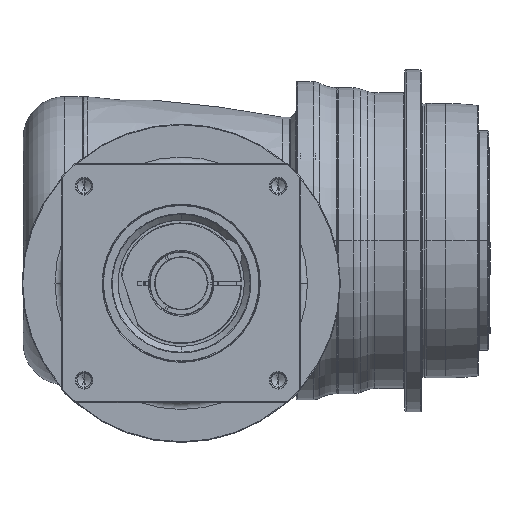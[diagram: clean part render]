
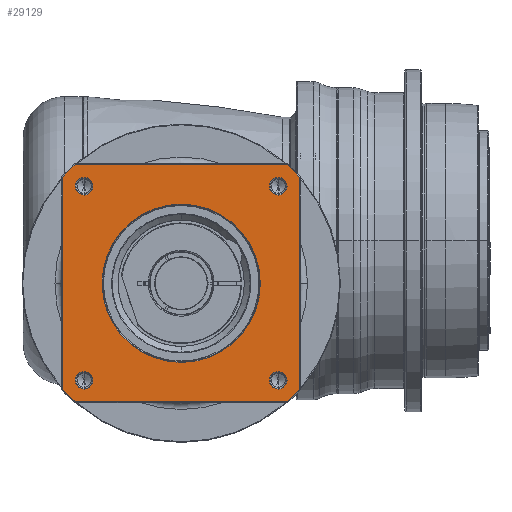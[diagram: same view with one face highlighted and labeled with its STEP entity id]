
A CAD part, front view. The second image highlights one B-rep face of the part: STEP entity #29129.
In plain terms, the highlighted planar face has unit normal (0, -1, 0) as drawn and (0, 0, 1) by its records, which use the part's own axes.
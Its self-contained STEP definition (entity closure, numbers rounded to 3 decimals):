
#27880=CARTESIAN_POINT('',(0.,0.,
76.));
#27881=DIRECTION('',(0.,0.,-1.));
#27882=DIRECTION('',(0.,-1.,0.));
#27883=AXIS2_PLACEMENT_3D('',#27880,#27881,#27882);
#27885=CARTESIAN_POINT('',(0.,0.,
76.));
#27886=DIRECTION('',(0.,0.,-1.));
#27887=DIRECTION('',(0.,1.,0.));
#27888=AXIS2_PLACEMENT_3D('',#27885,#27886,#27887);
#27890=CARTESIAN_POINT('',(0.,0.,76.));
#27891=DIRECTION('',(0.,0.,1.));
#27892=DIRECTION('',(-0.746,-0.666,0.));
#27893=AXIS2_PLACEMENT_3D('',#27890,#27891,#27892);
#27905=DIRECTION('',(1.,0.,0.));
#27906=VECTOR('',#27905,154.58);
#27907=CARTESIAN_POINT('',(-77.29,-86.5,76.));
#27908=LINE('',#27907,#27906);
#27918=CARTESIAN_POINT('',(0.,0.,76.));
#27919=DIRECTION('',(0.,0.,1.));
#27920=DIRECTION('',(0.666,-0.746,0.));
#27921=AXIS2_PLACEMENT_3D('',#27918,#27919,#27920);
#27933=DIRECTION('',(0.,1.,0.));
#27934=VECTOR('',#27933,154.58);
#27935=CARTESIAN_POINT('',(86.5,-77.29,76.));
#27936=LINE('',#27935,#27934);
#27946=CARTESIAN_POINT('',(0.,0.,76.));
#27947=DIRECTION('',(0.,0.,1.));
#27948=DIRECTION('',(0.746,0.666,0.));
#27949=AXIS2_PLACEMENT_3D('',#27946,#27947,#27948);
#27961=DIRECTION('',(-1.,0.,0.));
#27962=VECTOR('',#27961,154.58);
#27963=CARTESIAN_POINT('',(77.29,86.5,76.));
#27964=LINE('',#27963,#27962);
#27969=CARTESIAN_POINT('',(0.,0.,76.));
#27970=DIRECTION('',(0.,0.,1.));
#27971=DIRECTION('',(-0.666,0.746,0.));
#27972=AXIS2_PLACEMENT_3D('',#27969,#27970,#27971);
#27989=DIRECTION('',(0.,-1.,0.));
#27990=VECTOR('',#27989,154.58);
#27991=CARTESIAN_POINT('',(-86.5,77.29,76.));
#27992=LINE('',#27991,#27990);
#28075=CARTESIAN_POINT('',(-70.711,70.711,76.));
#28076=DIRECTION('',(0.,0.,1.));
#28077=DIRECTION('',(-1.,0.,0.));
#28078=AXIS2_PLACEMENT_3D('',#28075,#28076,#28077);
#28093=CARTESIAN_POINT('',(-70.711,70.711,76.));
#28094=DIRECTION('',(0.,0.,1.));
#28095=DIRECTION('',(1.,0.,0.));
#28096=AXIS2_PLACEMENT_3D('',#28093,#28094,#28095);
#28129=CARTESIAN_POINT('',(70.711,70.711,76.));
#28130=DIRECTION('',(0.,0.,1.));
#28131=DIRECTION('',(-1.,0.,0.));
#28132=AXIS2_PLACEMENT_3D('',#28129,#28130,#28131);
#28147=CARTESIAN_POINT('',(70.711,70.711,76.));
#28148=DIRECTION('',(0.,0.,1.));
#28149=DIRECTION('',(1.,0.,0.));
#28150=AXIS2_PLACEMENT_3D('',#28147,#28148,#28149);
#28183=CARTESIAN_POINT('',(70.711,-70.711,76.));
#28184=DIRECTION('',(0.,0.,1.));
#28185=DIRECTION('',(-1.,0.,0.));
#28186=AXIS2_PLACEMENT_3D('',#28183,#28184,#28185);
#28201=CARTESIAN_POINT('',(70.711,-70.711,76.));
#28202=DIRECTION('',(0.,0.,1.));
#28203=DIRECTION('',(1.,0.,0.));
#28204=AXIS2_PLACEMENT_3D('',#28201,#28202,#28203);
#28237=CARTESIAN_POINT('',(-70.711,-70.711,76.));
#28238=DIRECTION('',(0.,0.,1.));
#28239=DIRECTION('',(-1.,0.,0.));
#28240=AXIS2_PLACEMENT_3D('',#28237,#28238,#28239);
#28255=CARTESIAN_POINT('',(-70.711,-70.711,76.));
#28256=DIRECTION('',(0.,0.,1.));
#28257=DIRECTION('',(1.,0.,0.));
#28258=AXIS2_PLACEMENT_3D('',#28255,#28256,#28257);
#28387=CARTESIAN_POINT('',(86.5,-77.29,76.));
#28388=CARTESIAN_POINT('',(86.5,77.29,76.));
#28389=VERTEX_POINT('',#28387);
#28390=VERTEX_POINT('',#28388);
#28395=CARTESIAN_POINT('',(77.29,-86.5,76.));
#28396=VERTEX_POINT('',#28395);
#28399=CARTESIAN_POINT('',(-77.29,-86.5,76.));
#28400=VERTEX_POINT('',#28399);
#28403=CARTESIAN_POINT('',(-86.5,-77.29,76.));
#28404=VERTEX_POINT('',#28403);
#28407=CARTESIAN_POINT('',(-86.5,77.29,76.));
#28408=VERTEX_POINT('',#28407);
#28411=CARTESIAN_POINT('',(-77.29,86.5,76.));
#28412=VERTEX_POINT('',#28411);
#28415=CARTESIAN_POINT('',(77.29,86.5,76.));
#28416=VERTEX_POINT('',#28415);
#28425=CARTESIAN_POINT('',(-77.111,70.711,76.));
#28426=CARTESIAN_POINT('',(-64.311,70.711,76.));
#28427=VERTEX_POINT('',#28425);
#28428=VERTEX_POINT('',#28426);
#28451=CARTESIAN_POINT('',(77.111,70.711,76.));
#28452=CARTESIAN_POINT('',(64.311,70.711,76.));
#28453=VERTEX_POINT('',#28451);
#28454=VERTEX_POINT('',#28452);
#28459=CARTESIAN_POINT('',(77.111,-70.711,76.));
#28460=CARTESIAN_POINT('',(64.311,-70.711,76.));
#28461=VERTEX_POINT('',#28459);
#28462=VERTEX_POINT('',#28460);
#28467=CARTESIAN_POINT('',(-64.311,-70.711,76.));
#28468=CARTESIAN_POINT('',(-77.111,-70.711,76.));
#28469=VERTEX_POINT('',#28467);
#28470=VERTEX_POINT('',#28468);
#28475=CARTESIAN_POINT('',(0.,-57.65,76.));
#28476=CARTESIAN_POINT('',(0.,57.65,76.));
#28477=VERTEX_POINT('',#28475);
#28478=VERTEX_POINT('',#28476);
#29077=CARTESIAN_POINT('',(0.,0.,76.));
#29078=DIRECTION('',(0.,0.,1.));
#29079=DIRECTION('',(1.,0.,0.));
#29080=AXIS2_PLACEMENT_3D('',#29077,#29078,#29079);
#29081=PLANE('',#29080);
#29083=ORIENTED_EDGE('',*,*,#29082,.F.);
#29085=ORIENTED_EDGE('',*,*,#29084,.F.);
#29087=ORIENTED_EDGE('',*,*,#29086,.F.);
#29089=ORIENTED_EDGE('',*,*,#29088,.F.);
#29091=ORIENTED_EDGE('',*,*,#29090,.F.);
#29093=ORIENTED_EDGE('',*,*,#29092,.F.);
#29095=ORIENTED_EDGE('',*,*,#29094,.F.);
#29097=ORIENTED_EDGE('',*,*,#29096,.F.);
#29098=EDGE_LOOP('',(#29083,#29085,#29087,#29089,#29091,#29093,#29095,#29097));
#29099=FACE_OUTER_BOUND('',#29098,.F.);
#29100=ORIENTED_EDGE('',*,*,#29067,.F.);
#29102=ORIENTED_EDGE('',*,*,#29101,.F.);
#29103=EDGE_LOOP('',(#29100,#29102));
#29104=FACE_BOUND('',#29103,.F.);
#29106=ORIENTED_EDGE('',*,*,#29105,.T.);
#29108=ORIENTED_EDGE('',*,*,#29107,.T.);
#29109=EDGE_LOOP('',(#29106,#29108));
#29110=FACE_BOUND('',#29109,.F.);
#29112=ORIENTED_EDGE('',*,*,#29111,.T.);
#29114=ORIENTED_EDGE('',*,*,#29113,.T.);
#29115=EDGE_LOOP('',(#29112,#29114));
#29116=FACE_BOUND('',#29115,.F.);
#29118=ORIENTED_EDGE('',*,*,#29117,.T.);
#29120=ORIENTED_EDGE('',*,*,#29119,.T.);
#29121=EDGE_LOOP('',(#29118,#29120));
#29122=FACE_BOUND('',#29121,.F.);
#29124=ORIENTED_EDGE('',*,*,#29123,.T.);
#29126=ORIENTED_EDGE('',*,*,#29125,.T.);
#29127=EDGE_LOOP('',(#29124,#29126));
#29128=FACE_BOUND('',#29127,.F.);
#29129=ADVANCED_FACE('',(#29099,#29104,#29110,#29116,#29122,#29128),#29081,.T.);
#27884=CIRCLE('',#27883,57.65);
#27889=CIRCLE('',#27888,57.65);
#27894=CIRCLE('',#27893,116.);
#27922=CIRCLE('',#27921,116.);
#27950=CIRCLE('',#27949,116.);
#27973=CIRCLE('',#27972,116.);
#28079=CIRCLE('',#28078,6.4);
#28097=CIRCLE('',#28096,6.4);
#28133=CIRCLE('',#28132,6.4);
#28151=CIRCLE('',#28150,6.4);
#28187=CIRCLE('',#28186,6.4);
#28205=CIRCLE('',#28204,6.4);
#28241=CIRCLE('',#28240,6.4);
#28259=CIRCLE('',#28258,6.4);
#29067=EDGE_CURVE('',#28477,#28478,#27884,.T.);
#29082=EDGE_CURVE('',#28404,#28400,#27894,.T.);
#29084=EDGE_CURVE('',#28408,#28404,#27992,.T.);
#29086=EDGE_CURVE('',#28412,#28408,#27973,.T.);
#29088=EDGE_CURVE('',#28416,#28412,#27964,.T.);
#29090=EDGE_CURVE('',#28390,#28416,#27950,.T.);
#29092=EDGE_CURVE('',#28389,#28390,#27936,.T.);
#29094=EDGE_CURVE('',#28396,#28389,#27922,.T.);
#29096=EDGE_CURVE('',#28400,#28396,#27908,.T.);
#29101=EDGE_CURVE('',#28478,#28477,#27889,.T.);
#29105=EDGE_CURVE('',#28427,#28428,#28079,.T.);
#29107=EDGE_CURVE('',#28428,#28427,#28097,.T.);
#29111=EDGE_CURVE('',#28454,#28453,#28133,.T.);
#29113=EDGE_CURVE('',#28453,#28454,#28151,.T.);
#29117=EDGE_CURVE('',#28462,#28461,#28187,.T.);
#29119=EDGE_CURVE('',#28461,#28462,#28205,.T.);
#29123=EDGE_CURVE('',#28470,#28469,#28241,.T.);
#29125=EDGE_CURVE('',#28469,#28470,#28259,.T.);
